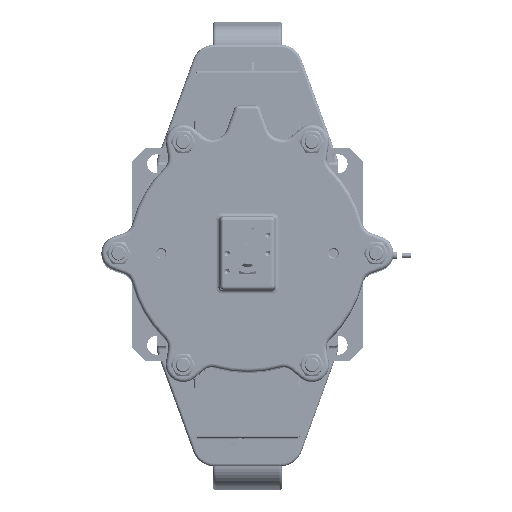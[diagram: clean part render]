
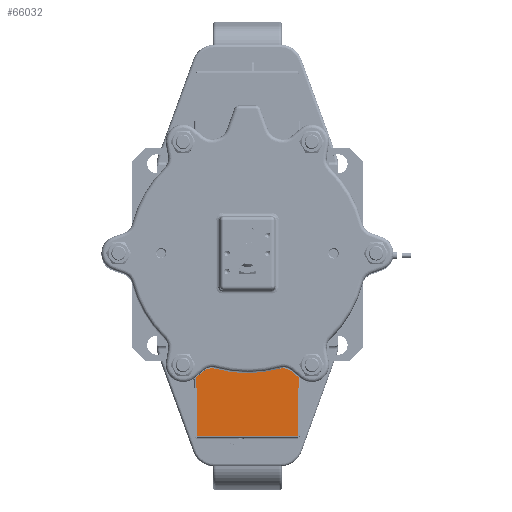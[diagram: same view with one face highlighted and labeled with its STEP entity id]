
A CAD part, top view. The second image highlights one B-rep face of the part: STEP entity #66032.
In plain terms, the highlighted planar face has unit normal (0, 0, 1).
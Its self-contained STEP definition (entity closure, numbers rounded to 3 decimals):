
#4303=PLANE('',#72483);
#7105=FACE_OUTER_BOUND('',#11369,.T.);
#11369=EDGE_LOOP('',(#51358,#51359,#51360,#51361,#51362,#51363,#51364,#51365,
#51366,#51367,#51368,#51369));
#15437=LINE('',#164826,#18864);
#15441=LINE('',#164834,#18868);
#15444=LINE('',#164841,#18871);
#15450=LINE('',#164852,#18877);
#15452=LINE('',#164857,#18879);
#15455=LINE('',#164866,#18882);
#15457=LINE('',#164873,#18884);
#15460=LINE('',#164880,#18887);
#15466=LINE('',#164891,#18893);
#15467=LINE('',#164894,#18894);
#15468=LINE('',#164895,#18895);
#15469=LINE('',#164896,#18896);
#18864=VECTOR('',#87530,10.);
#18868=VECTOR('',#87536,10.);
#18871=VECTOR('',#87541,10.);
#18877=VECTOR('',#87549,10.);
#18879=VECTOR('',#87553,10.);
#18882=VECTOR('',#87568,10.);
#18884=VECTOR('',#87578,10.);
#18887=VECTOR('',#87583,10.);
#18893=VECTOR('',#87591,10.);
#18894=VECTOR('',#87594,10.);
#18895=VECTOR('',#87595,10.);
#18896=VECTOR('',#87596,10.);
#28422=VERTEX_POINT('',#164824);
#28423=VERTEX_POINT('',#164825);
#28426=VERTEX_POINT('',#164833);
#28428=VERTEX_POINT('',#164839);
#28429=VERTEX_POINT('',#164840);
#28432=VERTEX_POINT('',#164848);
#28435=VERTEX_POINT('',#164855);
#28436=VERTEX_POINT('',#164872);
#28438=VERTEX_POINT('',#164878);
#28439=VERTEX_POINT('',#164879);
#28442=VERTEX_POINT('',#164887);
#28444=VERTEX_POINT('',#164893);
#36411=EDGE_CURVE('',#28422,#28423,#15437,.T.);
#36415=EDGE_CURVE('',#28426,#28423,#15441,.T.);
#36418=EDGE_CURVE('',#28428,#28429,#15444,.T.);
#36424=EDGE_CURVE('',#28429,#28432,#15450,.T.);
#36426=EDGE_CURVE('',#28435,#28426,#15452,.T.);
#36433=EDGE_CURVE('',#28435,#28432,#15455,.T.);
#36435=EDGE_CURVE('',#28436,#28422,#15457,.T.);
#36438=EDGE_CURVE('',#28438,#28439,#15460,.T.);
#36444=EDGE_CURVE('',#28442,#28436,#15466,.T.);
#36445=EDGE_CURVE('',#28444,#28442,#15467,.T.);
#36446=EDGE_CURVE('',#28438,#28428,#15468,.T.);
#36447=EDGE_CURVE('',#28439,#28444,#15469,.T.);
#51358=ORIENTED_EDGE('',*,*,#36445,.T.);
#51359=ORIENTED_EDGE('',*,*,#36444,.T.);
#51360=ORIENTED_EDGE('',*,*,#36435,.T.);
#51361=ORIENTED_EDGE('',*,*,#36411,.T.);
#51362=ORIENTED_EDGE('',*,*,#36415,.F.);
#51363=ORIENTED_EDGE('',*,*,#36426,.F.);
#51364=ORIENTED_EDGE('',*,*,#36433,.T.);
#51365=ORIENTED_EDGE('',*,*,#36424,.F.);
#51366=ORIENTED_EDGE('',*,*,#36418,.F.);
#51367=ORIENTED_EDGE('',*,*,#36446,.F.);
#51368=ORIENTED_EDGE('',*,*,#36438,.T.);
#51369=ORIENTED_EDGE('',*,*,#36447,.T.);
#66032=ADVANCED_FACE('',(#7105),#4303,.F.);
#72483=AXIS2_PLACEMENT_3D('',#164892,#87592,#87593);
#87530=DIRECTION('',(-1.,0.,0.));
#87536=DIRECTION('',(0.,1.,0.));
#87541=DIRECTION('',(0.,1.,0.));
#87549=DIRECTION('',(-1.,0.,0.));
#87553=DIRECTION('',(1.,0.,0.));
#87568=DIRECTION('',(0.,-1.,0.));
#87578=DIRECTION('',(0.,1.,0.));
#87583=DIRECTION('',(0.,1.,0.));
#87591=DIRECTION('',(-1.,0.,0.));
#87592=DIRECTION('center_axis',(0.,0.,
-1.));
#87593=DIRECTION('ref_axis',(1.,0.,0.));
#87594=DIRECTION('',(0.,1.,0.));
#87595=DIRECTION('',(-1.,0.,0.));
#87596=DIRECTION('',(1.,0.,0.));
#164824=CARTESIAN_POINT('',(55.5,-107.,913.5));
#164825=CARTESIAN_POINT('',(-55.5,-107.,913.5));
#164826=CARTESIAN_POINT('',(55.5,-107.,913.5));
#164833=CARTESIAN_POINT('',(-55.5,-132.,913.5));
#164834=CARTESIAN_POINT('',(-55.5,-132.,913.5));
#164839=CARTESIAN_POINT('',(-55.5,-200.,913.5));
#164840=CARTESIAN_POINT('',(-55.5,-147.,913.5));
#164841=CARTESIAN_POINT('',(-55.5,-200.,913.5));
#164848=CARTESIAN_POINT('',(-56.5,-147.,913.5));
#164852=CARTESIAN_POINT('',(-55.5,-147.,913.5));
#164855=CARTESIAN_POINT('',(-56.5,-132.,913.5));
#164857=CARTESIAN_POINT('',(-71.85,-132.,913.5));
#164866=CARTESIAN_POINT('',(-56.5,-142.056,913.5));
#164872=CARTESIAN_POINT('',(55.5,-132.,913.5));
#164873=CARTESIAN_POINT('',(55.5,-132.,913.5));
#164878=CARTESIAN_POINT('',(55.5,-200.,913.5));
#164879=CARTESIAN_POINT('',(55.5,-147.,913.5));
#164880=CARTESIAN_POINT('',(55.5,-200.,913.5));
#164887=CARTESIAN_POINT('',(56.5,-132.,913.5));
#164891=CARTESIAN_POINT('',(71.85,-132.,913.5));
#164892=CARTESIAN_POINT('Origin',(-32.057,-152.111,913.5));
#164893=CARTESIAN_POINT('',(56.5,-147.,913.5));
#164894=CARTESIAN_POINT('',(56.5,-149.556,913.5));
#164895=CARTESIAN_POINT('',(0.,-200.,913.5));
#164896=CARTESIAN_POINT('',(55.5,-147.,913.5));
